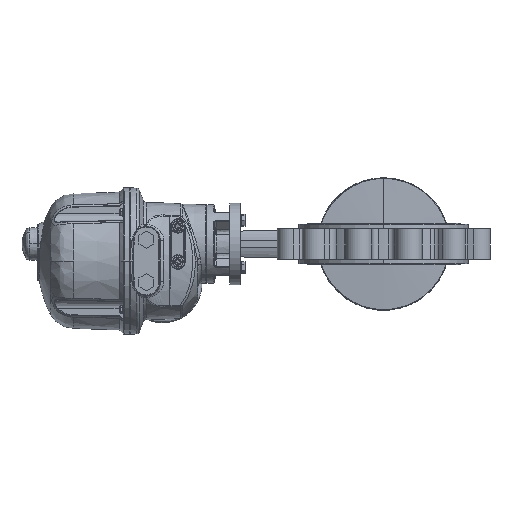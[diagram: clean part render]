
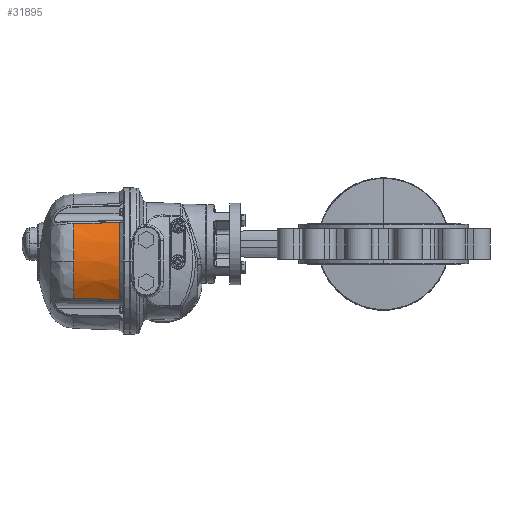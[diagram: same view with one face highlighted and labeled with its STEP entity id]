
A CAD part, left-side view. The second image highlights one B-rep face of the part: STEP entity #31895.
In plain terms, the highlighted conical face has half-angle 2 degrees and reference radius 105.486 mm.
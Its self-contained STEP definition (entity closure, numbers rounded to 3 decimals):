
#2831 = AXIS2_PLACEMENT_3D ( 'NONE', #41928, #98070, #15538 ) ;
#6413 = CARTESIAN_POINT ( 'NONE',  ( 0., 403.697, -26. ) ) ;
#8174 = EDGE_CURVE ( 'NONE', #102429, #87720, #43203, .T. ) ;
#12014 = EDGE_CURVE ( 'NONE', #51673, #56364, #37128, .T. ) ;
#12327 = CARTESIAN_POINT ( 'NONE',  ( 0., 473.805, -26. ) ) ;
#15310 = CARTESIAN_POINT ( 'NONE',  ( -85.758, 473.805, 31.118 ) ) ;
#15538 = DIRECTION ( 'NONE',  ( 1., 0., 0. ) ) ;
#18834 = AXIS2_PLACEMENT_3D ( 'NONE', #12327, #52657, #99892 ) ;
#19435 = CARTESIAN_POINT ( 'NONE',  ( 0., 473.805, -26. ) ) ;
#21789 = CARTESIAN_POINT ( 'NONE',  ( -103.038, 473.805, -26. ) ) ;
#21937 = CONICAL_SURFACE ( 'NONE', #45294, 105.486, 0.035 ) ;
#30948 = EDGE_CURVE ( 'NONE', #51673, #92216, #61965, .T. ) ;
#31895 = ADVANCED_FACE ( 'NONE', ( #78273 ), #21937, .T. ) ;
#34113 = CARTESIAN_POINT ( 'NONE',  ( -87.019, 427.297, -84.153 ) ) ;
#37128 = CIRCLE ( 'NONE', #18834, 103.038 ) ;
#37305 = CARTESIAN_POINT ( 'NONE',  ( -86.385, 450.666, 31.633 ) ) ;
#37987 = CIRCLE ( 'NONE', #2831, 105.486 ) ;
#38794 = CARTESIAN_POINT ( 'NONE',  ( -87.659, 403.697, -84.679 ) ) ;
#41928 = CARTESIAN_POINT ( 'NONE',  ( 0., 403.697, -26. ) ) ;
#42095 = CARTESIAN_POINT ( 'NONE',  ( -85.758, 473.805, -83.118 ) ) ;
#43203 = B_SPLINE_CURVE_WITH_KNOTS ( 'NONE', 3,
 ( #60911, #70890, #37305, #15310 ),
 .UNSPECIFIED., .F., .F.,
 ( 4, 4 ),
 ( 0., 1. ),
 .UNSPECIFIED. ) ;
#45294 = AXIS2_PLACEMENT_3D ( 'NONE', #6413, #94033, #67775 ) ;
#45420 = EDGE_LOOP ( 'NONE', ( #102885, #75494, #59422, #45974, #88628 ) ) ;
#45974 = ORIENTED_EDGE ( 'NONE', *, *, #12014, .F. ) ;
#47676 = CIRCLE ( 'NONE', #54326, 103.038 ) ;
#50846 = DIRECTION ( 'NONE',  ( 0., 1., 0. ) ) ;
#51673 = VERTEX_POINT ( 'NONE', #42095 ) ;
#52657 = DIRECTION ( 'NONE',  ( 0., 1., 0. ) ) ;
#54326 = AXIS2_PLACEMENT_3D ( 'NONE', #19435, #50846, #81278 ) ;
#56364 = VERTEX_POINT ( 'NONE', #21789 ) ;
#58230 = CARTESIAN_POINT ( 'NONE',  ( -86.385, 450.666, -83.633 ) ) ;
#59422 = ORIENTED_EDGE ( 'NONE', *, *, #83497, .F. ) ;
#60911 = CARTESIAN_POINT ( 'NONE',  ( -87.659, 403.697, 32.679 ) ) ;
#61965 = B_SPLINE_CURVE_WITH_KNOTS ( 'NONE', 3,
 ( #79916, #58230, #34113, #95172 ),
 .UNSPECIFIED., .F., .F.,
 ( 4, 4 ),
 ( 0., 1. ),
 .UNSPECIFIED. ) ;
#64456 = CARTESIAN_POINT ( 'NONE',  ( -87.659, 403.697, 32.679 ) ) ;
#67775 = DIRECTION ( 'NONE',  ( 1., 0., 0. ) ) ;
#70890 = CARTESIAN_POINT ( 'NONE',  ( -87.019, 427.297, 32.153 ) ) ;
#75494 = ORIENTED_EDGE ( 'NONE', *, *, #8174, .T. ) ;
#78273 = FACE_OUTER_BOUND ( 'NONE', #45420, .T. ) ;
#79916 = CARTESIAN_POINT ( 'NONE',  ( -85.758, 473.805, -83.118 ) ) ;
#81278 = DIRECTION ( 'NONE',  ( 1., 0., 0. ) ) ;
#83497 = EDGE_CURVE ( 'NONE', #56364, #87720, #47676, .T. ) ;
#87315 = EDGE_CURVE ( 'NONE', #92216, #102429, #37987, .T. ) ;
#87720 = VERTEX_POINT ( 'NONE', #102478 ) ;
#88628 = ORIENTED_EDGE ( 'NONE', *, *, #30948, .T. ) ;
#92216 = VERTEX_POINT ( 'NONE', #38794 ) ;
#94033 = DIRECTION ( 'NONE',  ( 0., -1., 0. ) ) ;
#95172 = CARTESIAN_POINT ( 'NONE',  ( -87.659, 403.697, -84.679 ) ) ;
#98070 = DIRECTION ( 'NONE',  ( 0., 1., 0. ) ) ;
#99892 = DIRECTION ( 'NONE',  ( 1., 0., 0. ) ) ;
#102429 = VERTEX_POINT ( 'NONE', #64456 ) ;
#102478 = CARTESIAN_POINT ( 'NONE',  ( -85.758, 473.805, 31.118 ) ) ;
#102885 = ORIENTED_EDGE ( 'NONE', *, *, #87315, .T. ) ;
